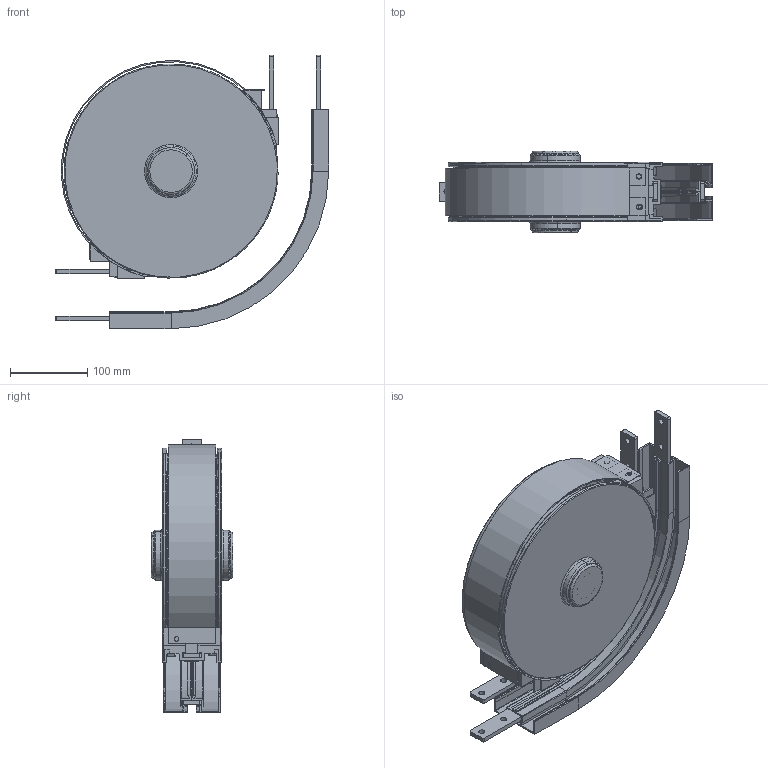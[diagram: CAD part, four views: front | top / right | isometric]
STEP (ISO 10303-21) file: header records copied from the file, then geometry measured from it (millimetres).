
FILE_DESCRIPTION (( 'STEP AP214' ), '1' );
FILE_NAME ('FMWB90R160A.STEP', '2012-04-03T13:03:11', ( 'gs' ), ( 'Microsoft' ), 'SwSTEP 2.0', 'SolidWorks 2011', '' );
FILE_SCHEMA (( 'AUTOMOTIVE_DESIGN' ));
Length unit declared in the file: millimetre
Products named in the file (12): FM-FACS-25X140A_Default; FMWB90R160A; FM-FAEC-WH_Default; FM-6004ZZ; FM-20 ExternalCirclip; FM-WH278063; FM-WHCV-90_Default; FM-Courbe_90<Brut d''usinage>; FM-WH08002A-3_Default; FM-WHA-FM001_Default; FM-FM WH83001-0_Default; FM-WH08001A-3_Default
Assembly tree (24 placements, depth 2):
  FMWB90R160A
    FM-Courbe_90<Brut d''usinage>
    FM-FAEC-WH_Default  x2
    FM-6004ZZ  x4
    FM-WH08001A-3_Default
    FM-WH278063  x2
    FM-WHCV-90_Default
    FM-20 ExternalCirclip  x5
    FM-FM WH83001-0_Default  x2
    FM-FACS-25X140A_Default  x4
    FM-WH08002A-3_Default
    FM-WHA-FM001_Default
Bounding box: 354.22 x 105.8 x 354.22 mm (x, y, z)
Volume: 1728482.5 mm3; surface area: 741266.3 mm2
Topology: 24 solids, 24 shells, 1232 faces, 3204 edges, 2090 vertices
Faces by surface type: plane 638, cylinder 399, bspline 88, torus 77, cone 30
Entity records: 26191 total; most frequent: CARTESIAN_POINT 8216, ORIENTED_EDGE 3518, DIRECTION 3427, EDGE_CURVE 1759, AXIS2_PLACEMENT_3D 1176, VERTEX_POINT 1130, VECTOR 1075, LINE 1075
